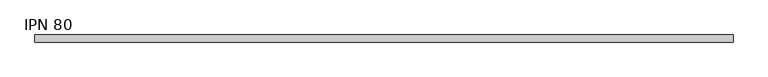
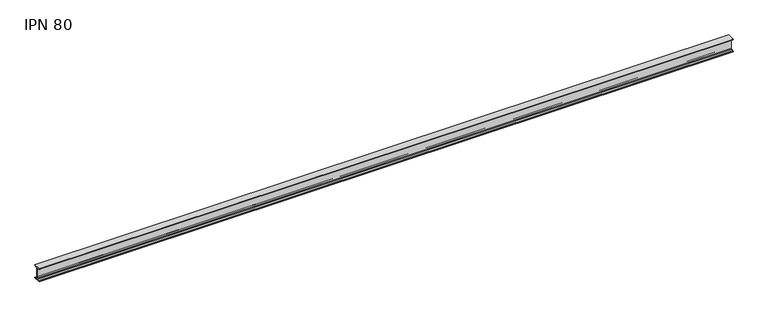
"""IFC4 building model written with IfcOpenShell, lengths in millimetres: beam geometry, IPN - Secciones en I con alas cónicas : IPN 80."""

from ifc_helpers import new_model, si_unit, point, frame, frame_2d, origin, place, context, project, spatial, polyline, circle_curve, trimmed, segment, composite_curve, outline, extrude, source, transform, mapped, element, save


def ipn_80_3dda92cb(model_context):
    return source(origin(), model_context, "Body", "SweptSolid", [
        extrude(outline(composite_curve([segment(polyline([(-21.0, 40.0), (21.0, 40.0), (21.0, 37.5704306)]), True, "CONTINUOUS"), segment(trimmed(circle_curve(frame_2d((18.7, 37.5704306)), 2.3), [point((21.0, 37.5704306))], [point((19.01889, 35.2926446))], False, "CARTESIAN"), True, "CONTINUOUS"), segment(polyline([(19.01889, 35.2926446), (5.3092734, 33.3732983)]), True, "CONTINUOUS"), segment(trimmed(circle_curve(frame_2d((5.85, 29.5109655)), 3.9), [point((5.3092734, 33.3732983))], [point((1.95, 29.5109655))], True, "CARTESIAN"), True, "CONTINUOUS"), segment(polyline([(1.95, 29.5109655), (1.95, -29.5109655)]), True, "CONTINUOUS"), segment(trimmed(circle_curve(frame_2d((5.85, -29.5109655)), 3.9), [point((1.95, -29.5109655))], [point((5.3092734, -33.3732983))], True, "CARTESIAN"), True, "CONTINUOUS"), segment(polyline([(5.3092734, -33.3732983), (19.01889, -35.2926446)]), True, "CONTINUOUS"), segment(trimmed(circle_curve(frame_2d((18.7, -37.5704306)), 2.3), [point((19.01889, -35.2926446))], [point((21.0, -37.5704306))], False, "CARTESIAN"), True, "CONTINUOUS"), segment(polyline([(21.0, -37.5704306), (21.0, -40.0), (-21.0, -40.0), (-21.0, -37.5704306)]), True, "CONTINUOUS"), segment(trimmed(circle_curve(frame_2d((-18.7, -37.5704306)), 2.3), [point((-21.0, -37.5704306))], [point((-19.01889, -35.2926446))], False, "CARTESIAN"), True, "CONTINUOUS"), segment(polyline([(-19.01889, -35.2926446), (-5.3092734, -33.3732983)]), True, "CONTINUOUS"), segment(trimmed(circle_curve(frame_2d((-5.85, -29.5109655)), 3.9), [point((-5.3092734, -33.3732983))], [point((-1.95, -29.5109655))], True, "CARTESIAN"), True, "CONTINUOUS"), segment(polyline([(-1.95, -29.5109655), (-1.95, 29.5109655)]), True, "CONTINUOUS"), segment(trimmed(circle_curve(frame_2d((-5.85, 29.5109655)), 3.9), [point((-1.95, 29.5109655))], [point((-5.3092734, 33.3732983))], True, "CARTESIAN"), True, "CONTINUOUS"), segment(polyline([(-5.3092734, 33.3732983), (-19.01889, 35.2926446)]), True, "CONTINUOUS"), segment(trimmed(circle_curve(frame_2d((-18.7, 37.5704306)), 2.3), [point((-19.01889, 35.2926446))], [point((-21.0, 37.5704306))], False, "CARTESIAN"), True, "CONTINUOUS"), segment(polyline([(-21.0, 37.5704306), (-21.0, 40.0)]), True, "CONTINUOUS")], self_intersect=False)), frame((-2055.85, 0.0, 0.0), z_axis=(1.0, 0.0, 0.0), x_axis=(0.0, 1.0, 0.0)), (0.0, 0.0, 1.0), 4084.85),
    ])


if __name__ == "__main__":
    model = new_model("IFC4")
    model_context = context("Model", 3, world=origin())
    ifc_project = project(units=[si_unit("LENGTHUNIT", "METRE", prefix="MILLI")], contexts=[model_context])
    site = spatial("IfcSite", under=ifc_project)
    building = spatial("IfcBuilding", under=site)
    placement = place(None, origin())
    ipn_80_shape = ipn_80_3dda92cb(model_context)
    element("IfcBeam", 1, ObjectType="IPN - Secciones en I con alas cónicas : IPN 80", at=placement, inside=building, context=model_context, shape_type="MappedRepresentation", body=[
        mapped(ipn_80_shape, transform((0.0, 0.0, 0.0), x_axis=(1.0, 0.0, 0.0), y_axis=(0.0, 1.0, 0.0), z_axis=(0.0, 0.0, 1.0))),
    ])
    save(model, "model.ifc")
